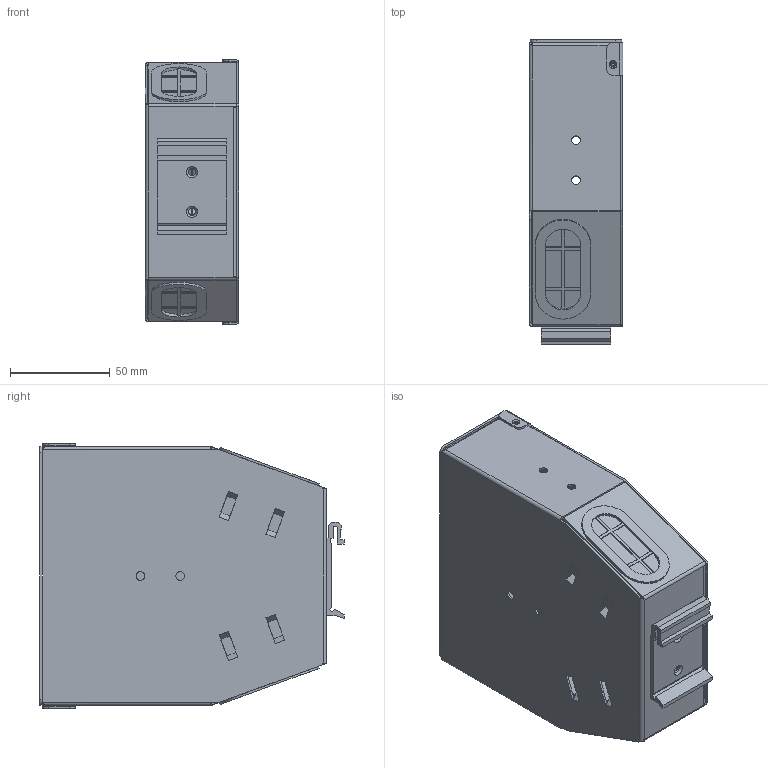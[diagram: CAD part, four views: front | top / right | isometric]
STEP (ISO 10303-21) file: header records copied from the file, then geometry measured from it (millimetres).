
FILE_DESCRIPTION(('TFLEX Exchange Step'),'2;1');
FILE_NAME('STK-TP-08RJ45-1-CATХХ-DIN.stp', '2025-01-30T08:30:31+03:00',('Yuriy Romanov'),('Unknown organisation'),'TFLEX Exchange 2023.2','T-FLEX CAD','Unknown authorisation');
FILE_SCHEMA( ('AUTOMOTIVE_DESIGN { 1 0 10303 214 1 1 1 1 }') );
Length unit declared in the file: millimetre
Products named in the file (1): Тело_2:1
Bounding box: 47 x 153.07 x 133 mm (x, y, z)
Volume: 93366.4 mm3; surface area: 139165.9 mm2
Topology: 16 solids, 16 shells, 1641 faces, 4466 edges, 2969 vertices
Faces by surface type: plane 1093, extrusion 408, cylinder 108, cone 26, bspline 6
Full cylindrical faces by diameter (mm): 1.6 x3, 2 x2, 2.5 x4, 3 x4, 3.5 x6, 3.8 x1, 4 x2, 4.3 x8, 4.5 x2, 4.8 x4, 5.4 x2, 6.5 x2
Entity records: 53698 total; most frequent: CARTESIAN_POINT 13083, ORIENTED_EDGE 8932, DIRECTION 6837, EDGE_CURVE 4466, VECTOR 3711, LINE 3303, VERTEX_POINT 2969, EDGE_LOOP 1829
